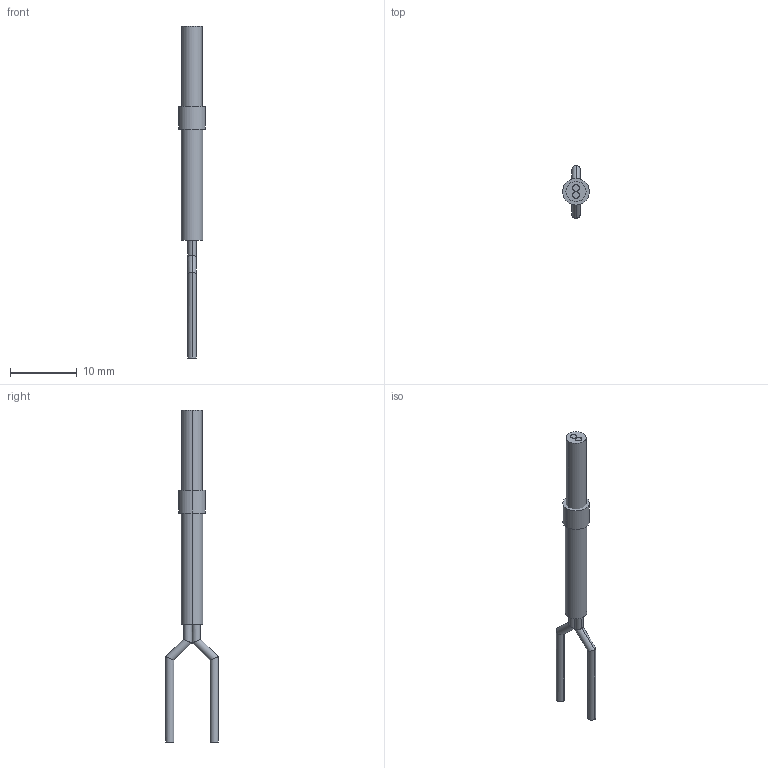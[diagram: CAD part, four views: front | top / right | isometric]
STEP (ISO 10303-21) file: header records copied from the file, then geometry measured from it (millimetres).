
FILE_DESCRIPTION (( 'STEP AP203' ), '1' );
FILE_NAME ('FD-P50.STEP', '2005-09-04T10:12:41', ( '川島良英' ), ( ' ' ), 'SwSTEP 2.0', 'SolidWorks 2004251', '' );
FILE_SCHEMA (( 'CONFIG_CONTROL_DESIGN' ));
Length unit declared in the file: millimetre
Products named in the file (1): FD-P50
Bounding box: 4 x 7.91 x 49.6 mm (x, y, z)
Volume: 328.2 mm3; surface area: 538.3 mm2
Topology: 2 solids, 2 shells, 31 faces, 58 edges, 36 vertices
Faces by surface type: cylinder 22, plane 9
Entity records: 851 total; most frequent: CARTESIAN_POINT 150, DIRECTION 142, ORIENTED_EDGE 116, AXIS2_PLACEMENT_3D 60, EDGE_CURVE 58, EDGE_LOOP 36, VERTEX_POINT 36, FACE_OUTER_BOUND 31
